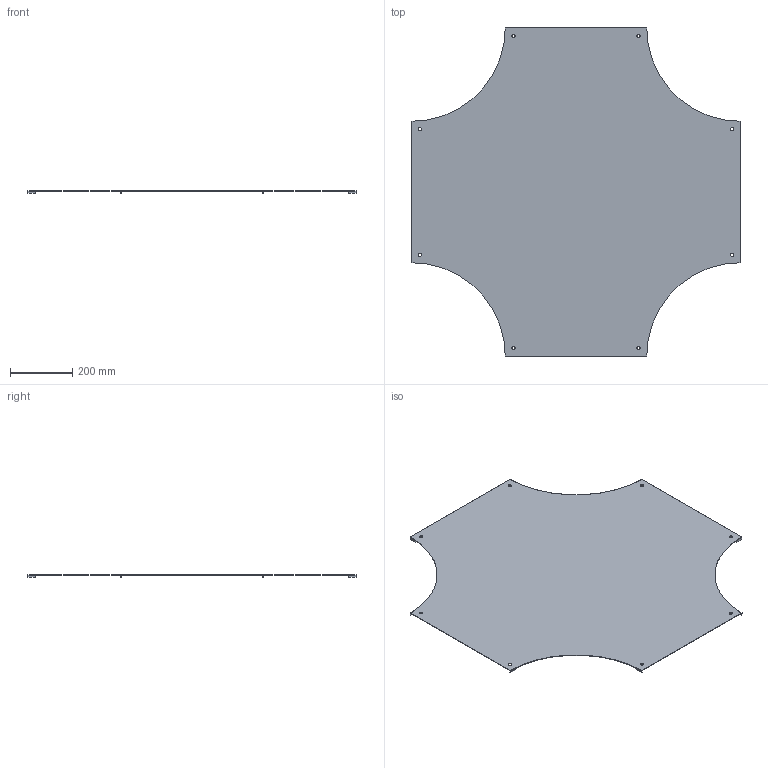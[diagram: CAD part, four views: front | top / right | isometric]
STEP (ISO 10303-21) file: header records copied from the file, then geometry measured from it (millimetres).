
FILE_DESCRIPTION(/* description */ ('','CAx-IF Rec.Pracs.---Representation and Presentation of Product Manufacturing Information (PMI)---4.0---2014-10-13'),/* implementation_level */ '2;1');
FILE_NAME(/* name */ 'Eurostrut_ECOC400-300_Cover Crossover for Cable Ladder ECL.step',/* time_stamp */ '2026-09-10T10:49:18+02:00',/* author */ (''),/* organization */ (''),/* preprocessor_version */ 'ST-DEVELOPER v20.1',/* originating_system */ 'Autodesk Revit 2027 27.2.0.39',/* authorisation */ '');
FILE_SCHEMA (('AP242_MANAGED_MODEL_BASED_3D_ENGINEERING_MIM_LF { 1 0 10303 442 2 1 4 }'));
Length unit declared in the file: millimetre
Products named in the file (6): TopLevelAssembly; Joined Solid Geometry; Joined Solid Geometry_1; Joined Solid Geometry_2; Joined Solid Geometry_3; Joined Solid Geometry_4
Assembly tree (5 placements, depth 2):
  TopLevelAssembly
    Joined Solid Geometry
    Joined Solid Geometry_1
    Joined Solid Geometry_2
    Joined Solid Geometry_3
    Joined Solid Geometry_4
Bounding box: 1050 x 1050 x 9 mm (x, y, z)
Volume: 1235175.7 mm3; surface area: 1653590.2 mm2
Topology: 9 solids, 9 shells, 74 faces, 168 edges, 112 vertices
Faces by surface type: plane 38, cylinder 36
Entity records: 2242 total; most frequent: DIRECTION 410, CARTESIAN_POINT 365, ORIENTED_EDGE 336, EDGE_CURVE 168, AXIS2_PLACEMENT_3D 157, VERTEX_POINT 112, LINE 96, VECTOR 96
